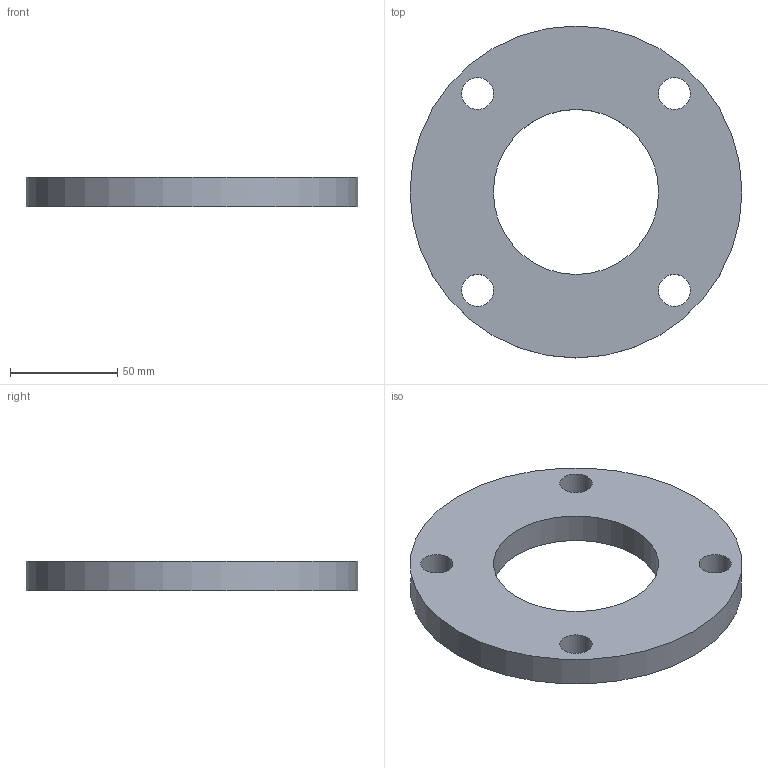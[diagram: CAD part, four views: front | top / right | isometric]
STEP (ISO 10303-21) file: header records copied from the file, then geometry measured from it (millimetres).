
FILE_DESCRIPTION(/* description */ (''),/* implementation_level */ '2;1');
FILE_NAME(/* name */ 'C:\Users\D\Documents\Inventor\HP\JIS\フランジ\JIS 5k sop ff\jis5k-sop-ff-65.stp',/* time_stamp */ '2024-09-12T16:54:34+09:00',/* author */ ('D'),/* organization */ (''),/* preprocessor_version */ 'ST-DEVELOPER v18',/* originating_system */ 'Autodesk Inventor 2020',/* authorisation */ '');
FILE_SCHEMA (('AUTOMOTIVE_DESIGN { 1 0 10303 214 3 1 1 }'));
Length unit declared in the file: millimetre
Products named in the file (1): jis5k-sop-rf-10
Bounding box: 155 x 155 x 14 mm (x, y, z)
Volume: 188910.5 mm3; surface area: 39834.4 mm2
Topology: 1 solids, 1 shells, 8 faces, 25 edges, 19 vertices
Faces by surface type: cylinder 6, plane 2
Full cylindrical faces by diameter (mm): 15 x4, 77.1 x1, 155 x1
Entity records: 365 total; most frequent: DIRECTION 62, CARTESIAN_POINT 53, ORIENTED_EDGE 50, AXIS2_PLACEMENT_3D 28, EDGE_CURVE 25, CIRCLE 19, VERTEX_POINT 19, EDGE_LOOP 18
